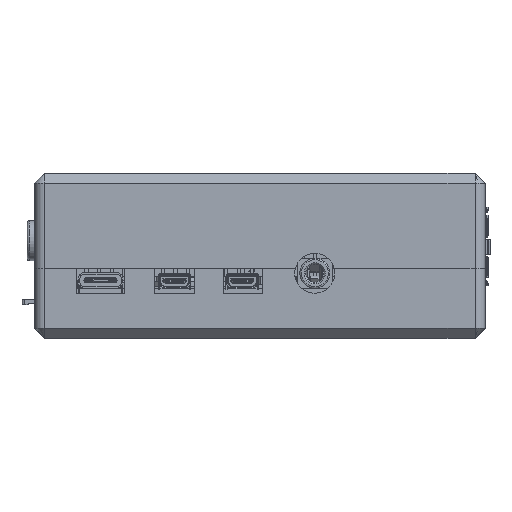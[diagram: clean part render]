
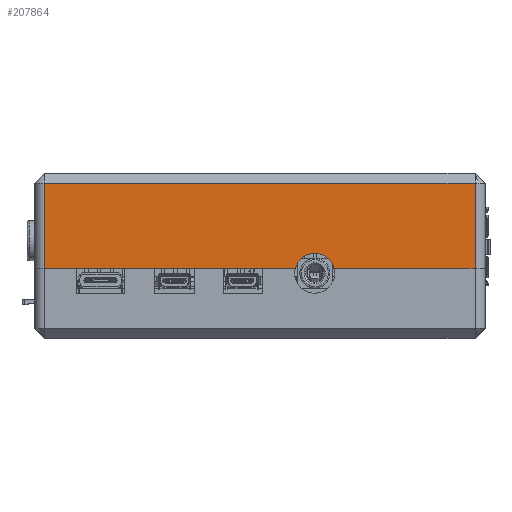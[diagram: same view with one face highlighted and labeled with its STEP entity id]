
A CAD part, top view. The second image highlights one B-rep face of the part: STEP entity #207864.
In plain terms, the highlighted planar face has unit normal (0, 0, 1).
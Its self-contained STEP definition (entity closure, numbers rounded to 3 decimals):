
#9721=PLANE('',#221294);
#19633=FACE_OUTER_BOUND('',#30485,.T.);
#30485=EDGE_LOOP('',(#184827,#184828,#184829,#184830,#184831,#184832));
#53982=LINE('',#354772,#77690);
#53986=LINE('',#354788,#77694);
#54051=LINE('',#354926,#77759);
#54052=LINE('',#354928,#77760);
#54053=LINE('',#354929,#77761);
#77690=VECTOR('',#270795,10.);
#77694=VECTOR('',#270809,10.);
#77759=VECTOR('',#270892,10.);
#77760=VECTOR('',#270893,10.);
#77761=VECTOR('',#270894,10.);
#82072=CIRCLE('',#221292,4.);
#100255=VERTEX_POINT('',#354769);
#100256=VERTEX_POINT('',#354771);
#100262=VERTEX_POINT('',#354785);
#100263=VERTEX_POINT('',#354787);
#100327=VERTEX_POINT('',#354925);
#100328=VERTEX_POINT('',#354927);
#128510=EDGE_CURVE('',#100256,#100255,#53982,.T.);
#128518=EDGE_CURVE('',#100263,#100262,#53986,.T.);
#128584=EDGE_CURVE('',#100255,#100263,#82072,.T.);
#128588=EDGE_CURVE('',#100327,#100262,#54051,.T.);
#128589=EDGE_CURVE('',#100328,#100327,#54052,.T.);
#128590=EDGE_CURVE('',#100256,#100328,#54053,.T.);
#184827=ORIENTED_EDGE('',*,*,#128584,.T.);
#184828=ORIENTED_EDGE('',*,*,#128518,.T.);
#184829=ORIENTED_EDGE('',*,*,#128588,.F.);
#184830=ORIENTED_EDGE('',*,*,#128589,.F.);
#184831=ORIENTED_EDGE('',*,*,#128590,.F.);
#184832=ORIENTED_EDGE('',*,*,#128510,.T.);
#207864=ADVANCED_FACE('',(#19633),#9721,.T.);
#221292=AXIS2_PLACEMENT_3D('',#354917,#270883,#270884);
#221294=AXIS2_PLACEMENT_3D('',#354924,#270890,#270891);
#270795=DIRECTION('',(1.,0.,0.));
#270809=DIRECTION('',(1.,0.,0.));
#270883=DIRECTION('center_axis',(0.,0.,
-1.));
#270884=DIRECTION('ref_axis',(-0.968,-0.25,0.));
#270890=DIRECTION('center_axis',(0.,0.,
1.));
#270891=DIRECTION('ref_axis',(1.,0.,0.));
#270892=DIRECTION('',(0.,-1.,0.));
#270893=DIRECTION('',(1.,0.,0.));
#270894=DIRECTION('',(0.,1.,0.));
#354769=CARTESIAN_POINT('',(7.6,4.81,30.9));
#354771=CARTESIAN_POINT('',(-42.5,4.81,30.9));
#354772=CARTESIAN_POINT('',(-44.5,4.81,30.9));
#354785=CARTESIAN_POINT('',(43.5,4.81,30.9));
#354787=CARTESIAN_POINT('',(15.346,4.81,30.9));
#354788=CARTESIAN_POINT('',(-44.5,4.81,30.9));
#354917=CARTESIAN_POINT('Origin',(11.473,3.81,30.9));
#354924=CARTESIAN_POINT('Origin',(-44.5,4.81,30.9));
#354925=CARTESIAN_POINT('',(43.5,21.81,30.9));
#354926=CARTESIAN_POINT('',(43.5,4.81,30.9));
#354927=CARTESIAN_POINT('',(-42.5,21.81,30.9));
#354928=CARTESIAN_POINT('',(-22.,21.81,30.9));
#354929=CARTESIAN_POINT('',(-42.5,4.81,30.9));
